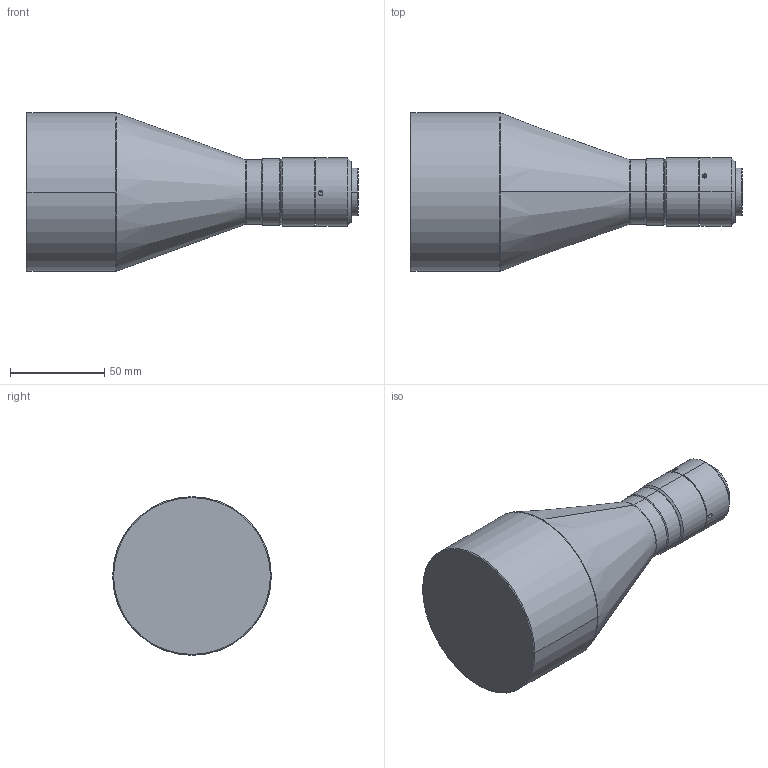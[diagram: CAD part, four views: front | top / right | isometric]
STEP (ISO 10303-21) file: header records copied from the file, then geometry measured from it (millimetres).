
FILE_DESCRIPTION (( 'STEP AP203' ), '1' );
FILE_NAME ('DTCM230-64H-AL.STEP', '2019-11-13T08:19:15', ( 'Windows 蚚誧' ), ( '' ), 'SwSTEP 2.0', 'SolidWorks 2017', '' );
FILE_SCHEMA (( 'CONFIG_CONTROL_DESIGN' ));
Length unit declared in the file: millimetre
Products named in the file (1): DTCM230-64H-AL
Bounding box: 175.7 x 84 x 84 mm (x, y, z)
Volume: 519607.5 mm3; surface area: 40491.3 mm2
Topology: 1 solids, 1 shells, 53 faces, 116 edges, 67 vertices
Faces by surface type: cylinder 22, cone 20, plane 7, bspline 4
Entity records: 1621 total; most frequent: CARTESIAN_POINT 405, DIRECTION 258, ORIENTED_EDGE 220, EDGE_CURVE 110, AXIS2_PLACEMENT_3D 108, VERTEX_POINT 67, EDGE_LOOP 61, CIRCLE 58
